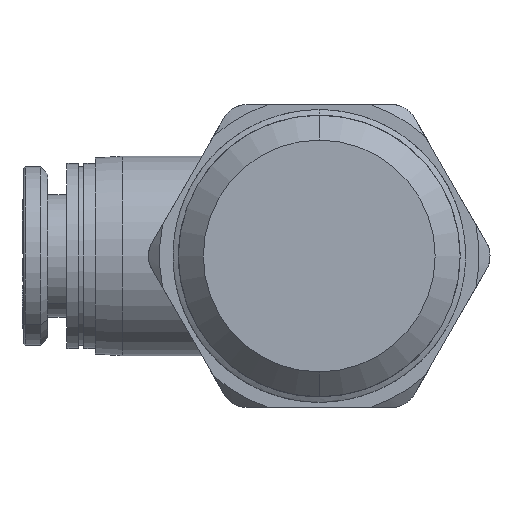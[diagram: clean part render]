
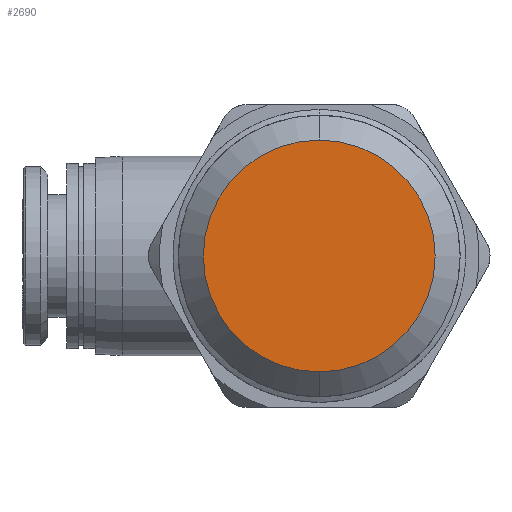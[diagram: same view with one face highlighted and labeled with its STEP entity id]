
A CAD part, front view. The second image highlights one B-rep face of the part: STEP entity #2690.
In plain terms, the highlighted planar face has unit normal (0, -1, 0).
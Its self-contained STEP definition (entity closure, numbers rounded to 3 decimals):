
#114 = ORIENTED_EDGE ( 'NONE', *, *, #3159, .T. ) ;
#207 = VERTEX_POINT ( 'NONE', #3888 ) ;
#447 = EDGE_LOOP ( 'NONE', ( #2643, #114 ) ) ;
#470 = DIRECTION ( 'NONE',  ( 0., -1., 0. ) ) ;
#1214 = CIRCLE ( 'NONE', #3273, 6.505 ) ;
#1333 = CARTESIAN_POINT ( 'NONE',  ( 11.06, -21.5, -6.505 ) ) ;
#1422 = CIRCLE ( 'NONE', #7024, 6.505 ) ;
#1843 = DIRECTION ( 'NONE',  ( 0., 0., -1. ) ) ;
#2383 = DIRECTION ( 'NONE',  ( 0., -1., 0. ) ) ;
#2408 = VERTEX_POINT ( 'NONE', #1333 ) ;
#2414 = DIRECTION ( 'NONE',  ( 0., 0., -1. ) ) ;
#2454 = EDGE_CURVE ( 'NONE', #207, #2408, #1422, .T. ) ;
#2643 = ORIENTED_EDGE ( 'NONE', *, *, #2454, .T. ) ;
#2690 = ADVANCED_FACE ( 'NONE', ( #7083 ), #6710, .T. ) ;
#3159 = EDGE_CURVE ( 'NONE', #2408, #207, #1214, .T. ) ;
#3271 = CARTESIAN_POINT ( 'NONE',  ( 11.06, -21.5, 0. ) ) ;
#3273 = AXIS2_PLACEMENT_3D ( 'NONE', #6877, #2383, #2414 ) ;
#3719 = CARTESIAN_POINT ( 'NONE',  ( 11.06, -21.5, 0. ) ) ;
#3859 = DIRECTION ( 'NONE',  ( 0., -1., 0. ) ) ;
#3888 = CARTESIAN_POINT ( 'NONE',  ( 11.06, -21.5, 6.505 ) ) ;
#5720 = AXIS2_PLACEMENT_3D ( 'NONE', #3719, #470, #1843 ) ;
#5882 = DIRECTION ( 'NONE',  ( 0., 0., -1. ) ) ;
#6710 = PLANE ( 'NONE',  #5720 ) ;
#6877 = CARTESIAN_POINT ( 'NONE',  ( 11.06, -21.5, 0. ) ) ;
#7024 = AXIS2_PLACEMENT_3D ( 'NONE', #3271, #3859, #5882 ) ;
#7083 = FACE_OUTER_BOUND ( 'NONE', #447, .T. ) ;
